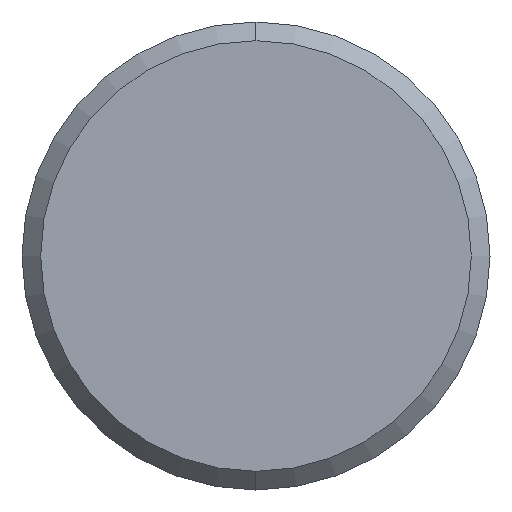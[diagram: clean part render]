
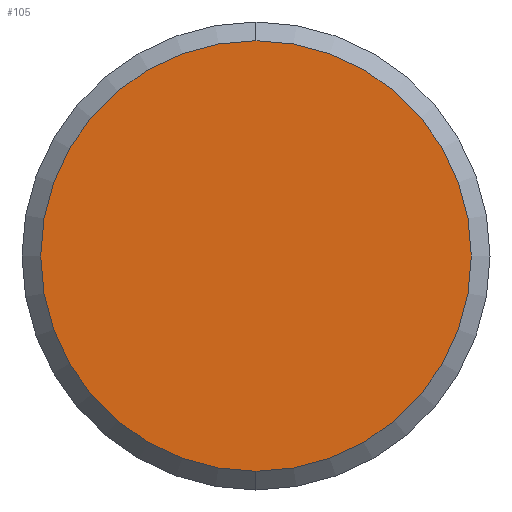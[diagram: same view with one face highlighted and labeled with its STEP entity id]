
A CAD part, left-side view. The second image highlights one B-rep face of the part: STEP entity #105.
In plain terms, the highlighted planar face has unit normal (-1, 0, 0).
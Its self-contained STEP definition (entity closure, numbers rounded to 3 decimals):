
#4 = DIRECTION ( 'NONE',  ( 1., 0., 0. ) ) ;
#39 = FACE_OUTER_BOUND ( 'NONE', #99, .T. ) ;
#50 = DIRECTION ( 'NONE',  ( -1., 0., 0. ) ) ;
#74 = DIRECTION ( 'NONE',  ( -1., 0., 0. ) ) ;
#76 = DIRECTION ( 'NONE',  ( 0., 0., -1. ) ) ;
#91 = PLANE ( 'NONE',  #95 ) ;
#95 = AXIS2_PLACEMENT_3D ( 'NONE', #143, #4, #199 ) ;
#99 = EDGE_LOOP ( 'NONE', ( #187, #144 ) ) ;
#101 = DIRECTION ( 'NONE',  ( 0., 0., -1. ) ) ;
#105 = ADVANCED_FACE ( 'NONE', ( #39 ), #91, .F. ) ;
#132 = AXIS2_PLACEMENT_3D ( 'NONE', #155, #50, #76 ) ;
#143 = CARTESIAN_POINT ( 'NONE',  ( -167.5, 12.5, 0. ) ) ;
#144 = ORIENTED_EDGE ( 'NONE', *, *, #265, .T. ) ;
#155 = CARTESIAN_POINT ( 'NONE',  ( -167.5, 0., 0. ) ) ;
#168 = CARTESIAN_POINT ( 'NONE',  ( -167.5, 0., -11.5 ) ) ;
#171 = CIRCLE ( 'NONE', #241, 11.5 ) ;
#187 = ORIENTED_EDGE ( 'NONE', *, *, #268, .T. ) ;
#195 = VERTEX_POINT ( 'NONE', #302 ) ;
#199 = DIRECTION ( 'NONE',  ( 0., 0., -1. ) ) ;
#230 = CARTESIAN_POINT ( 'NONE',  ( -167.5, 0., 0. ) ) ;
#241 = AXIS2_PLACEMENT_3D ( 'NONE', #230, #74, #101 ) ;
#265 = EDGE_CURVE ( 'NONE', #195, #322, #271, .T. ) ;
#268 = EDGE_CURVE ( 'NONE', #322, #195, #171, .T. ) ;
#271 = CIRCLE ( 'NONE', #132, 11.5 ) ;
#302 = CARTESIAN_POINT ( 'NONE',  ( -167.5, 0., 11.5 ) ) ;
#322 = VERTEX_POINT ( 'NONE', #168 ) ;
